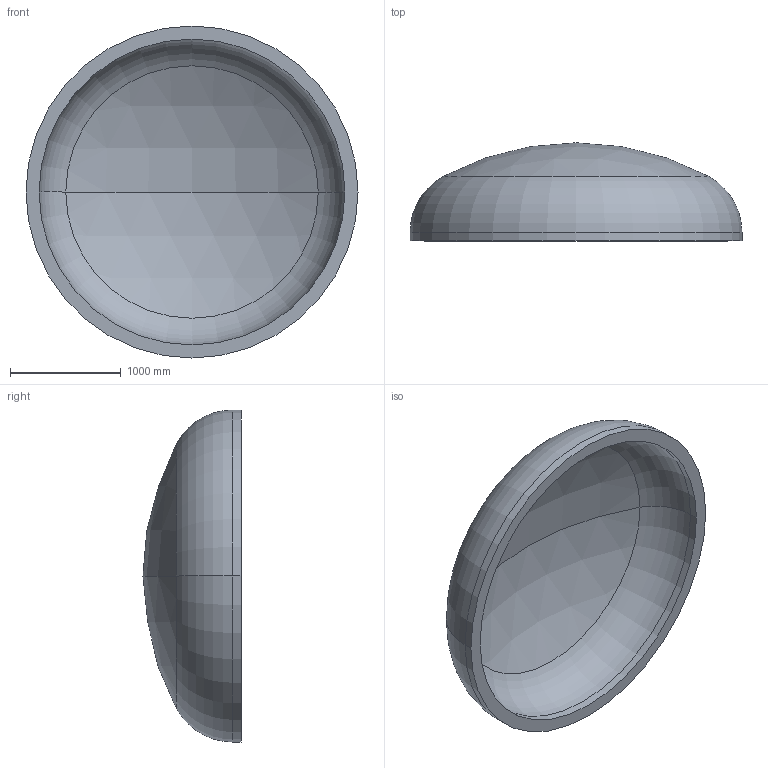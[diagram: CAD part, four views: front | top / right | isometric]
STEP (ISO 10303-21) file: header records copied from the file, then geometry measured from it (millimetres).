
FILE_DESCRIPTION (( 'STEP AP203' ), '1' );
FILE_NAME ('DIN 28013 Korbbogenform_-_Boden DIN 28013 - 3000 x 75 - I - s=118.step', '2016-07-01T18:12:23', ( '' ), ( '' ), 'SwSTEP 2.0', 'SolidWorks 2013', '' );
FILE_SCHEMA (( 'CONFIG_CONTROL_DESIGN' ));
Length unit declared in the file: millimetre
Products named in the file (1): DIN 28013 Korbbogenform_-_Boden DIN 28013 - 3000 x 75 - I - s=118
Bounding box: 3000 x 886.1 x 3000 mm (x, y, z)
Volume: 1176942210.7 mm3; surface area: 21045709.4 mm2
Topology: 1 solids, 1 shells, 13 faces, 24 edges, 14 vertices
Faces by surface type: torus 4, cylinder 4, sphere 4, plane 1
Entity records: 407 total; most frequent: DIRECTION 72, CARTESIAN_POINT 52, ORIENTED_EDGE 48, AXIS2_PLACEMENT_3D 34, EDGE_CURVE 24, CIRCLE 20, VERTEX_POINT 14, EDGE_LOOP 14
